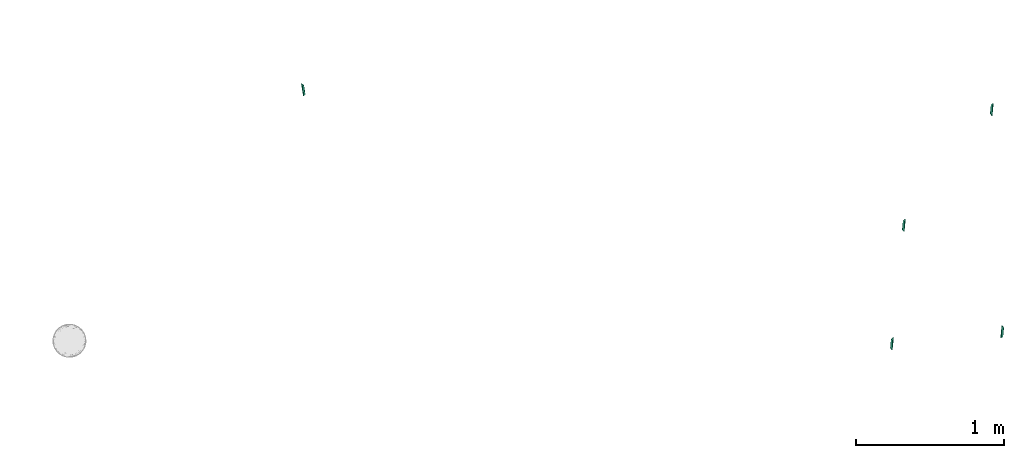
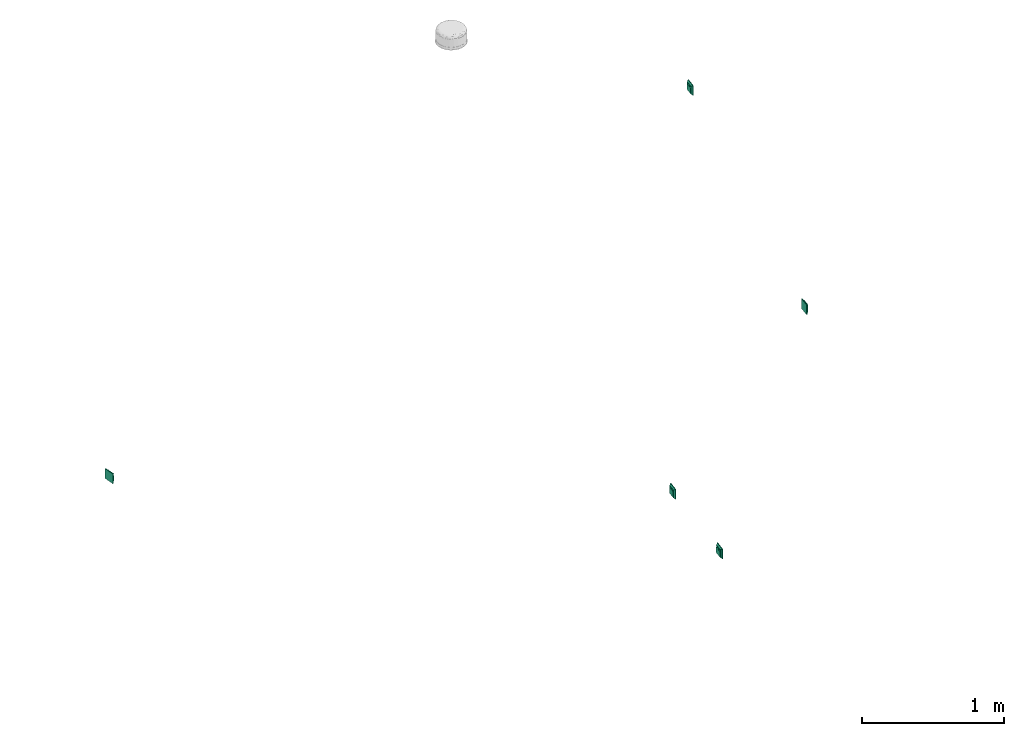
# One storey, part 2 of 2: 5 flow terminals.
"""IFC2X3 building model written with IfcOpenShell, lengths in millimetres."""

from ifc_helpers import new_model, entity, si_unit, converted_unit, derived_unit, direction, frame, frame_2d, origin, origin_with_axes, origin_2d_with_axis, place, context, subcontext, project, spatial, polyline, rectangle, outline, extrude, source, transform, mapped, material, type_object, element, save


model = new_model("IFC2X3")

# Units and contexts
plan_context = context("Plan", 3, precision=1e-05, world=origin_with_axes())
model_context = context("Model", 3, precision=0.01, world=origin(), true_north=direction((6.12323399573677e-17, 1.0)))
body_context = subcontext(model_context, "Body", "Model", "MODEL_VIEW")
ifc_project = project(units=[converted_unit("PLANEANGLEUNIT", "DEGREE", entity("IfcPositiveLengthMeasure", 0.0174532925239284), si_unit("PLANEANGLEUNIT", "RADIAN"), dimensions=[0, 0, 0, 0, 0, 0, 0]), si_unit("AREAUNIT", "SQUARE_METRE"), si_unit("LENGTHUNIT", "METRE", prefix="MILLI"), si_unit("MASSUNIT", "GRAM", prefix="KILO"), si_unit("POWERUNIT", "WATT"), si_unit("PRESSUREUNIT", "PASCAL", prefix="KILO"), si_unit("FORCEUNIT", "NEWTON", prefix="KILO"), si_unit("ELECTRICVOLTAGEUNIT", "VOLT"), si_unit("ELECTRICCURRENTUNIT", "AMPERE"), si_unit("THERMODYNAMICTEMPERATUREUNIT", "DEGREE_CELSIUS"), si_unit("TIMEUNIT", "SECOND"), si_unit("VOLUMEUNIT", "CUBIC_METRE"), derived_unit("LINEARVELOCITYUNIT", [(si_unit("LENGTHUNIT", "METRE"), 1), (si_unit("TIMEUNIT", "SECOND"), -1)]), derived_unit("VOLUMETRICFLOWRATEUNIT", [(si_unit("VOLUMEUNIT", "CUBIC_METRE"), 1), (si_unit("TIMEUNIT", "SECOND"), -1)]), derived_unit("THERMALTRANSMITTANCEUNIT", [(si_unit("POWERUNIT", "WATT"), 1), (si_unit("THERMODYNAMICTEMPERATUREUNIT", "KELVIN"), -1), (si_unit("AREAUNIT", "SQUARE_METRE"), -1)]), derived_unit("SOUNDPRESSUREUNIT", [(si_unit("PRESSUREUNIT", "PASCAL"), 1)])], contexts=[model_context, plan_context])

# Site, building, storey
site_placement = place(None, frame((-743.430438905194, 3176.84670324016, 0.0), z_axis=(0.0, 0.0, 1.0), x_axis=(-0.160236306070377, 0.987078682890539, 0.0)))
site = spatial("IfcSite", under=ifc_project, at=site_placement, Name="Default", CompositionType="ELEMENT")
building_placement = place(site_placement, origin_with_axes())
building = spatial("IfcBuilding", under=site, at=building_placement, CompositionType="ELEMENT")
storey_placement = place(building_placement, frame((0.0, 0.0, 59000.0), z_axis=(0.0, 0.0, 1.0), x_axis=(1.0, 0.0, 0.0)))
storey = spatial("IfcBuildingStorey", under=building, at=storey_placement, Name="Nivå F", CompositionType="ELEMENT", Elevation=59000.0)

# Flow terminals
ifc_material = material(Name="<Unnamed>")
electric_appliance_type_1 = type_object("IfcElectricApplianceType", Name="Tele-Data gen uttak dobbel:Tele-Dara gen.uttat dobbel, for WiFi", PredefinedType="NOTDEFINED", material=ifc_material)
shared_shape = source(origin(), body_context, "Body", "SweptSolid", [
    extrude(outline(polyline([(-32.5, -7.07106781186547), (32.5, -7.07106781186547), (42.5, 7.07106781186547), (-42.5, 7.07106781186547), (-32.5, -7.07106781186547)])), frame((0.0, 9.92928932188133, 37.4292893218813), z_axis=(0.0, 0.707106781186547, 0.707106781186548), x_axis=(-1.0, 0.0, 0.0)), (0.0, 0.0, 1.0), 0.200000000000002),
    extrude(outline(polyline([(-32.5, -7.07106781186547), (32.5, -7.07106781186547), (42.5, 7.07106781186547), (-42.5, 7.07106781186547), (-32.5, -7.07106781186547)])), frame((0.0, 10.0707106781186, -37.5707106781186), z_axis=(0.0, -0.707106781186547, 0.707106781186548), x_axis=(-1.0, 0.0, 0.0)), (0.0, 0.0, 1.0), 0.200000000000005),
    extrude(outline(polyline([(-30.3108891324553, -30.6186217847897), (-12.9903810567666, -30.6186217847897), (24.5373864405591, 22.4536559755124), (18.7638837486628, 38.7835875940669), (-30.3108891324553, -30.6186217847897)])), frame((-37.5707106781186, 10.0707106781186, 0.0), z_axis=(0.707106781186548, -0.707106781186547, 0.0), x_axis=(0.577350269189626, 0.577350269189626, 0.577350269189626)), (0.0, 0.0, 1.0), 0.199999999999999),
    extrude(outline(polyline([(-30.3108891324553, -30.6186217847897), (-12.9903810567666, -30.6186217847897), (24.5373864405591, 22.4536559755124), (18.7638837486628, 38.783587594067), (-30.3108891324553, -30.6186217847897)])), frame((37.4292893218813, 9.92928932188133, 0.0), z_axis=(0.707106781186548, 0.707106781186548, 0.0), x_axis=(-0.577350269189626, 0.577350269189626, 0.577350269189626)), (0.0, 0.0, 1.0), 0.199999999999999),
    extrude(rectangle(XDim=0.199999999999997, YDim=4.99999999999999, at=frame_2d((-4.2257863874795e-15, 0.0), x_axis=(1.0, 0.0))), frame((42.5, 2.5, -42.5)), (0.0, 0.0, 1.0), 84.9999999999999),
    extrude(rectangle(XDim=4.99999999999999, YDim=84.9999999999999, at=frame_2d((6.66133814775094e-16, 0.0), x_axis=(1.0, 0.0))), frame((0.0, 2.5, -42.6), z_axis=(0.0, 0.0, 1.0), x_axis=(0.0, -1.0, 0.0)), (0.0, 0.0, 1.0), 0.199999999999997),
    extrude(rectangle(XDim=0.199999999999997, YDim=4.99999999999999, at=frame_2d((-4.2257863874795e-15, 0.0), x_axis=(1.0, 0.0))), frame((-42.5, 2.5, -42.5)), (0.0, 0.0, 1.0), 84.9999999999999),
    extrude(rectangle(XDim=0.2, YDim=84.9999999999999, at=origin_2d_with_axis()), frame((0.0, 0.0, -42.5), z_axis=(0.0, 0.0, 1.0), x_axis=(0.0, 1.0, 0.0)), (0.0, 0.0, 1.0), 84.9999999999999),
    extrude(rectangle(XDim=4.99999999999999, YDim=84.9999999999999, at=frame_2d((6.66133814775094e-16, 0.0), x_axis=(1.0, 0.0))), frame((0.0, 2.5, 42.4), z_axis=(0.0, 0.0, 1.0), x_axis=(0.0, -1.0, 0.0)), (0.0, 0.0, 1.0), 0.199999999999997),
    extrude(rectangle(XDim=0.200000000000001, YDim=64.9999999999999, at=frame_2d((2.11636264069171e-15, 0.0), x_axis=(1.0, 0.0))), frame((0.0, 15.0, -32.5), z_axis=(0.0, 0.0, 1.0), x_axis=(0.0, 1.0, 0.0)), (0.0, 0.0, 1.0), 64.9999999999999),
    extrude(rectangle(XDim=0.199999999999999, YDim=15.0, at=frame_2d((1.06165076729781e-15, 0.0), x_axis=(1.0, 0.0))), frame((-10.0, 17.0099999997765, 0.500000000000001), z_axis=(0.0, 0.0, 1.0), x_axis=(0.0, 1.0, 0.0)), (0.0, 0.0, 1.0), 15.0),
    extrude(rectangle(XDim=0.199999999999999, YDim=15.0, at=frame_2d((1.06165076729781e-15, 0.0), x_axis=(1.0, 0.0))), frame((10.0, 17.0099999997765, 0.500000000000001), z_axis=(0.0, 0.0, 1.0), x_axis=(0.0, 1.0, 0.0)), (0.0, 0.0, 1.0), 15.0),
    extrude(rectangle(XDim=64.9999999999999, YDim=2.0, at=origin_2d_with_axis()), frame((0.0, 16.0, 27.5)), (0.0, 0.0, 1.0), 4.99999999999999),
    extrude(rectangle(XDim=64.9999999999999, YDim=2.0, at=origin_2d_with_axis()), frame((0.0, 16.0, -32.5)), (0.0, 0.0, 1.0), 50.0),
])
flow_terminal_1_placement = place(storey_placement, frame((780864.879524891, -509178.64348786, 3000.0), z_axis=(0.0, 0.0, 1.0), x_axis=(0.965914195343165, -0.258862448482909, 0.0)))
element("IfcFlowTerminal", 1, at=flow_terminal_1_placement, inside=storey, type_object=electric_appliance_type_1, material=ifc_material, Name="Tele-Data gen uttak dobbel:Tele-Dara gen.uttat dobbel, for WiFi", ObjectType="Tele-Data gen uttak dobbel:Tele-Dara gen.uttat dobbel, for WiFi", context=body_context, shape_type="MappedRepresentation", body=[
    mapped(shared_shape, transform((0.0, 0.0, 0.0), scale=1.0)),
])
electric_appliance_type_2 = type_object("IfcElectricApplianceType", Name="Tele-Data gen uttak dobbel:Tele-Data gen. uttak dobbel", PredefinedType="NOTDEFINED", material=ifc_material)
for number, where, z_axis, x_axis, name in (
    (2, (779409.9211852, -508258.529787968, 200.0), (0.0, 0.0, 1.0), (0.96603932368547, -0.25839509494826, 0.0), "Tele-Data gen uttak dobbel:Tele-Data gen. uttak dobbel"),
    (3, (780187.582840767, -508466.537839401, 200.0), (0.0, 0.0, 1.0), (0.96603932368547, -0.25839509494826, 0.0), "Tele-Data gen uttak dobbel:Tele-Data gen. uttak dobbel"),
    (4, (781744.728142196, -504589.378527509, 1200.0), (0.0, 0.0, 1.0), (-0.999999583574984, 0.000912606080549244, 0.0), "Tele-Data gen uttak dobbel:Tele-Data gen. uttak dobbel"),
):
    element("IfcFlowTerminal", number, at=place(storey_placement, frame(where, z_axis=z_axis, x_axis=x_axis)), inside=storey, type_object=electric_appliance_type_2, material=ifc_material, Name=name, ObjectType="Tele-Data gen uttak dobbel:Tele-Data gen. uttak dobbel", context=body_context, shape_type="MappedRepresentation", body=[
        mapped(shared_shape, transform((0.0, 0.0, 0.0), scale=1.0)),
    ])
flow_terminal_2_placement = place(storey_placement, frame((779372.506759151, -508991.446763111, 2000.0), z_axis=(0.0, 0.0, 1.0), x_axis=(-0.965914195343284, 0.258862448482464, 0.0)))
element("IfcFlowTerminal", 5, at=flow_terminal_2_placement, inside=storey, type_object=electric_appliance_type_1, material=ifc_material, Name="Tele-Data gen uttak dobbel:Tele-Dara gen.uttat dobbel, for WiFi", ObjectType="Tele-Data gen uttak dobbel:Tele-Dara gen.uttat dobbel, for WiFi", context=body_context, shape_type="MappedRepresentation", body=[
    mapped(shared_shape, transform((0.0, 0.0, 0.0), scale=1.0)),
])

save(model, "model.ifc")
